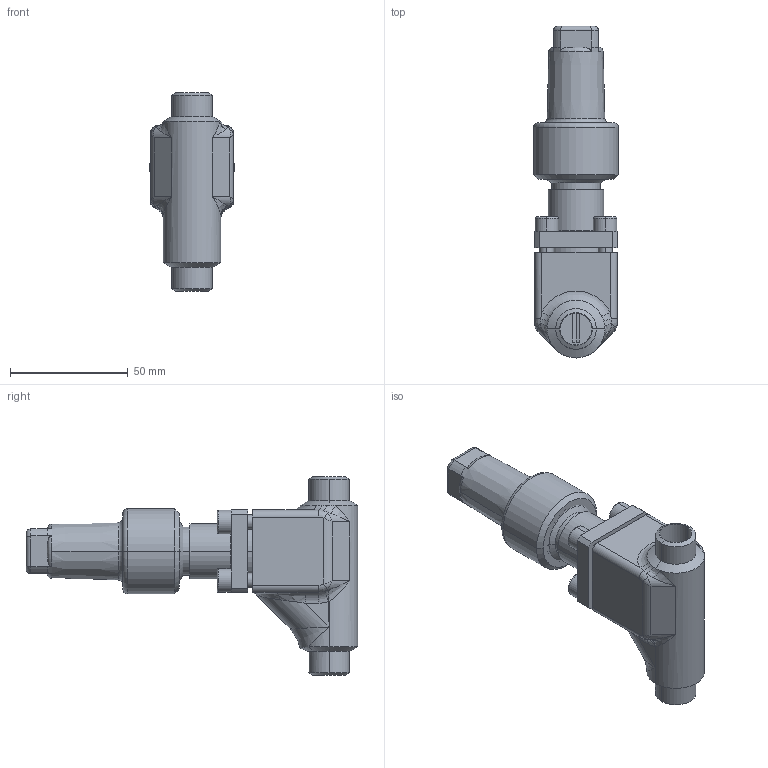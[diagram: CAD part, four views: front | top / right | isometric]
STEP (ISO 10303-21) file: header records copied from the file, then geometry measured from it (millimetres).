
FILE_DESCRIPTION (( 'STEP AP214' ), '1' );
FILE_NAME ('HRAR92300-DN010_R1_PS40.STEP', '2006-05-02T07:17:01', ( 'Herr Grams' ), ( 'AWP GmbH' ), 'SwSTEP 2.0', 'SolidWorks 2002296', '' );
FILE_SCHEMA (( 'AUTOMOTIVE_DESIGN' ));
Length unit declared in the file: millimetre
Products named in the file (6): HRAR92300-DN010_R1_PS40; Kappe96300E10_DN6-20_Standard; AVR96300E10_Deck+Schr-DN6-15_Standard; Deckel96300E10-DN6-15_PS40_Standard; Zylinderschraube-DIN912_M 6x 18; Gehäuse96300E08-DN10_PS40_R1_Standard
Assembly tree (8 placements, depth 3):
  HRAR92300-DN010_R1_PS40
    AVR96300E10_Deck+Schr-DN6-15_Standard
      Zylinderschraube-DIN912_M 6x 18  x4
      Deckel96300E10-DN6-15_PS40_Standard
    Gehäuse96300E08-DN10_PS40_R1_Standard
    Kappe96300E10_DN6-20_Standard
Bounding box: 36 x 140.7 x 84 mm (x, y, z)
Volume: 105954 mm3; surface area: 35642.2 mm2
Topology: 7 solids, 7 shells, 266 faces, 620 edges, 377 vertices
Faces by surface type: cylinder 94, plane 90, cone 29, bspline 29, torus 24
Entity records: 18216 total; most frequent: CARTESIAN_POINT 12824, ORIENTED_EDGE 996, DIRECTION 974, EDGE_CURVE 498, AXIS2_PLACEMENT_3D 403, VERTEX_POINT 305, EDGE_LOOP 235, FACE_OUTER_BOUND 212
